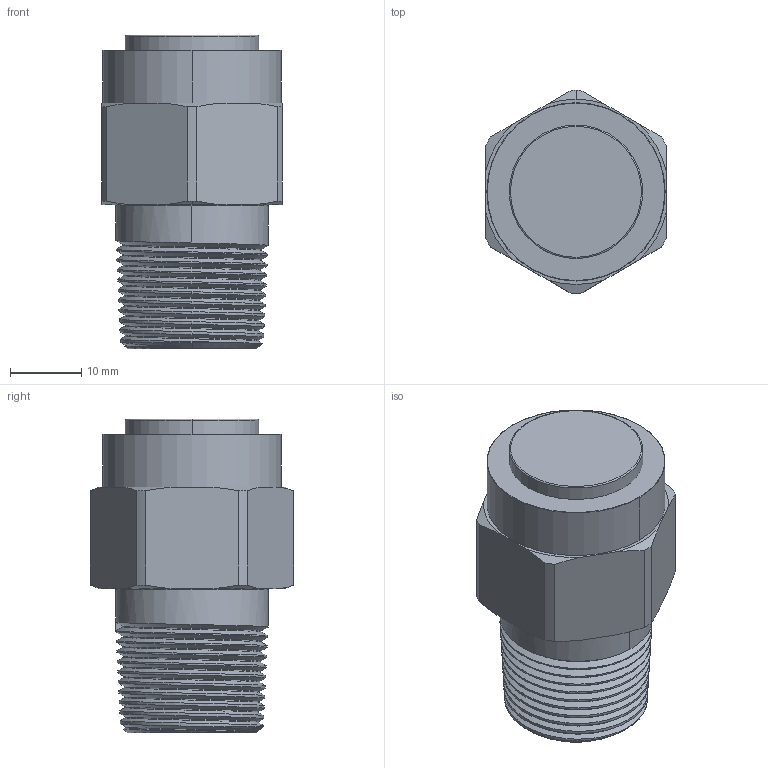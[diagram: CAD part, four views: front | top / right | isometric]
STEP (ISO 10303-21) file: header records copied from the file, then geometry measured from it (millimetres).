
FILE_DESCRIPTION (( 'STEP AP203' ), '1' );
FILE_NAME ('PSNC-4-SERIES.STEP', '2020-04-16T21:15:33', ( '' ), ( '' ), 'SwSTEP 2.0', 'SolidWorks 2017', '' );
FILE_SCHEMA (( 'CONFIG_CONTROL_DESIGN' ));
Length unit declared in the file: inch
Products named in the file (2): PSNC-4-SERIES
Bounding box: 25.3 x 28.45 x 43.94 mm (x, y, z)
Volume: 8896.1 mm3; surface area: 9194.7 mm2
Topology: 6 solids, 6 shells, 283 faces, 783 edges, 519 vertices
Faces by surface type: cylinder 175, cone 57, plane 37, bspline 8, torus 6
Entity records: 27012 total; most frequent: CARTESIAN_POINT 20538, ORIENTED_EDGE 1562, DIRECTION 1095, EDGE_CURVE 781, VERTEX_POINT 515, AXIS2_PLACEMENT_3D 413, EDGE_LOOP 296, ADVANCED_FACE 283
